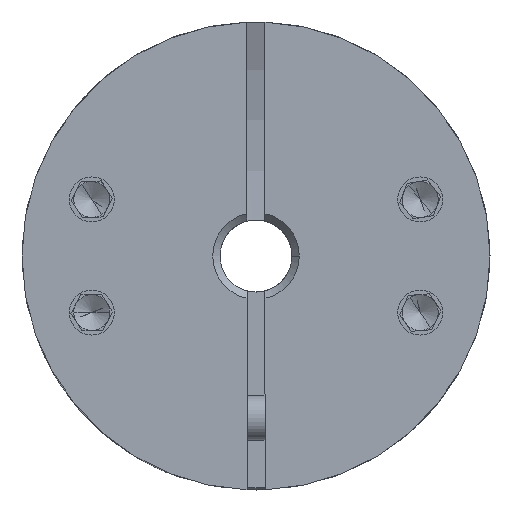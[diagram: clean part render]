
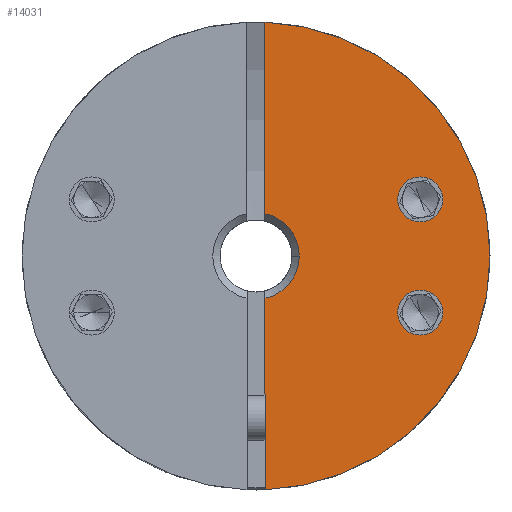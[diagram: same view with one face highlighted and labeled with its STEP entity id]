
A CAD part, front view. The second image highlights one B-rep face of the part: STEP entity #14031.
In plain terms, the highlighted planar face has unit normal (0, -1, 0).
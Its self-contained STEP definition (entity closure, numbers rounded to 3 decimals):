
#35 = ORIENTED_EDGE ( 'NONE', *, *, #4821, .T. ) ;
#223 = CARTESIAN_POINT ( 'NONE',  ( 10.88, -26.289, 3.142 ) ) ;
#957 = DIRECTION ( 'NONE',  ( 0., 1., 0. ) ) ;
#1394 = CARTESIAN_POINT ( 'NONE',  ( 2.255, -26.289, -2.347 ) ) ;
#1479 = DIRECTION ( 'NONE',  ( 0., 1., 0. ) ) ;
#1619 = CIRCLE ( 'NONE', #20240, 13. ) ;
#1633 = CARTESIAN_POINT ( 'NONE',  ( 2.255, -26.289, 12.99 ) ) ;
#1815 = VERTEX_POINT ( 'NONE', #15685 ) ;
#1834 = EDGE_CURVE ( 'NONE', #8481, #5390, #20692, .T. ) ;
#1841 = DIRECTION ( 'NONE',  ( 0., -1., 0. ) ) ;
#2091 = LINE ( 'NONE', #19864, #3199 ) ;
#2253 = DIRECTION ( 'NONE',  ( 1., 0., 0. ) ) ;
#3199 = VECTOR ( 'NONE', #9138, 1000. ) ;
#3470 = LINE ( 'NONE', #17398, #21293 ) ;
#4351 = VERTEX_POINT ( 'NONE', #19041 ) ;
#4403 = ORIENTED_EDGE ( 'NONE', *, *, #5373, .T. ) ;
#4557 = EDGE_CURVE ( 'NONE', #7689, #1815, #9451, .T. ) ;
#4639 = AXIS2_PLACEMENT_3D ( 'NONE', #17723, #1841, #14250 ) ;
#4821 = EDGE_CURVE ( 'NONE', #1815, #15744, #1619, .T. ) ;
#4854 = DIRECTION ( 'NONE',  ( 1., 0., 0. ) ) ;
#5155 = AXIS2_PLACEMENT_3D ( 'NONE', #7135, #8752, #21049 ) ;
#5373 = EDGE_CURVE ( 'NONE', #4351, #20056, #16672, .T. ) ;
#5390 = VERTEX_POINT ( 'NONE', #1394 ) ;
#5457 = DIRECTION ( 'NONE',  ( 1., 0., 0. ) ) ;
#5691 = CARTESIAN_POINT ( 'NONE',  ( 12.13, -26.289, -3.142 ) ) ;
#5926 = ORIENTED_EDGE ( 'NONE', *, *, #4557, .T. ) ;
#6212 = VERTEX_POINT ( 'NONE', #14711 ) ;
#7135 = CARTESIAN_POINT ( 'NONE',  ( 1.755, -26.289, 0. ) ) ;
#7640 = VERTEX_POINT ( 'NONE', #15616 ) ;
#7653 = EDGE_CURVE ( 'NONE', #5390, #7689, #3470, .T. ) ;
#7689 = VERTEX_POINT ( 'NONE', #10659 ) ;
#8171 = AXIS2_PLACEMENT_3D ( 'NONE', #12093, #1479, #4854 ) ;
#8256 = ORIENTED_EDGE ( 'NONE', *, *, #19450, .T. ) ;
#8343 = CARTESIAN_POINT ( 'NONE',  ( 10.88, -26.289, -3.142 ) ) ;
#8363 = DIRECTION ( 'NONE',  ( 1., 0., 0. ) ) ;
#8481 = VERTEX_POINT ( 'NONE', #11680 ) ;
#8752 = DIRECTION ( 'NONE',  ( 0., 1., 0. ) ) ;
#8767 = DIRECTION ( 'NONE',  ( 0., 0., -1. ) ) ;
#8856 = DIRECTION ( 'NONE',  ( 0., -1., 0. ) ) ;
#9138 = DIRECTION ( 'NONE',  ( 0., 0., -1. ) ) ;
#9292 = FACE_BOUND ( 'NONE', #10827, .T. ) ;
#9451 = CIRCLE ( 'NONE', #13106, 13. ) ;
#9516 = ORIENTED_EDGE ( 'NONE', *, *, #14835, .T. ) ;
#9820 = EDGE_CURVE ( 'NONE', #6212, #10980, #10014, .T. ) ;
#10014 = CIRCLE ( 'NONE', #20511, 1.25 ) ;
#10659 = CARTESIAN_POINT ( 'NONE',  ( 2.255, -26.289, -12.99 ) ) ;
#10827 = EDGE_LOOP ( 'NONE', ( #13080, #12329 ) ) ;
#10907 = ORIENTED_EDGE ( 'NONE', *, *, #13096, .T. ) ;
#10976 = FACE_OUTER_BOUND ( 'NONE', #20915, .T. ) ;
#10980 = VERTEX_POINT ( 'NONE', #16209 ) ;
#11433 = EDGE_CURVE ( 'NONE', #10980, #6212, #19402, .T. ) ;
#11680 = CARTESIAN_POINT ( 'NONE',  ( 4.155, -26.289, 0. ) ) ;
#12093 = CARTESIAN_POINT ( 'NONE',  ( 10.88, -26.289, -3.142 ) ) ;
#12329 = ORIENTED_EDGE ( 'NONE', *, *, #9820, .T. ) ;
#12534 = PLANE ( 'NONE',  #4639 ) ;
#12701 = DIRECTION ( 'NONE',  ( 1., 0., 0. ) ) ;
#13080 = ORIENTED_EDGE ( 'NONE', *, *, #11433, .T. ) ;
#13096 = EDGE_CURVE ( 'NONE', #15744, #7640, #2091, .T. ) ;
#13106 = AXIS2_PLACEMENT_3D ( 'NONE', #18339, #8856, #2253 ) ;
#13193 = AXIS2_PLACEMENT_3D ( 'NONE', #8343, #18841, #22496 ) ;
#13453 = DIRECTION ( 'NONE',  ( 1., 0., 0. ) ) ;
#13792 = CIRCLE ( 'NONE', #13193, 1.25 ) ;
#14031 = ADVANCED_FACE ( 'NONE', ( #10976, #9292, #17353 ), #12534, .T. ) ;
#14250 = DIRECTION ( 'NONE',  ( 1., 0., 0. ) ) ;
#14711 = CARTESIAN_POINT ( 'NONE',  ( 12.13, -26.289, 3.142 ) ) ;
#14808 = AXIS2_PLACEMENT_3D ( 'NONE', #15220, #957, #13453 ) ;
#14835 = EDGE_CURVE ( 'NONE', #7640, #8481, #19260, .T. ) ;
#15220 = CARTESIAN_POINT ( 'NONE',  ( 1.755, -26.289, 0. ) ) ;
#15616 = CARTESIAN_POINT ( 'NONE',  ( 2.255, -26.289, 2.347 ) ) ;
#15685 = CARTESIAN_POINT ( 'NONE',  ( 14.755, -26.289, 0. ) ) ;
#15744 = VERTEX_POINT ( 'NONE', #1633 ) ;
#15879 = CARTESIAN_POINT ( 'NONE',  ( 10.88, -26.289, 3.142 ) ) ;
#15910 = ORIENTED_EDGE ( 'NONE', *, *, #7653, .T. ) ;
#16209 = CARTESIAN_POINT ( 'NONE',  ( 9.63, -26.289, 3.142 ) ) ;
#16271 = DIRECTION ( 'NONE',  ( 0., 1., 0. ) ) ;
#16672 = CIRCLE ( 'NONE', #8171, 1.25 ) ;
#17353 = FACE_BOUND ( 'NONE', #20088, .T. ) ;
#17398 = CARTESIAN_POINT ( 'NONE',  ( 2.255, -26.289, 5. ) ) ;
#17418 = AXIS2_PLACEMENT_3D ( 'NONE', #223, #16271, #12701 ) ;
#17531 = ORIENTED_EDGE ( 'NONE', *, *, #1834, .T. ) ;
#17723 = CARTESIAN_POINT ( 'NONE',  ( 1.755, -26.289, 0. ) ) ;
#18048 = DIRECTION ( 'NONE',  ( 0., 1., 0. ) ) ;
#18339 = CARTESIAN_POINT ( 'NONE',  ( 1.755, -26.289, 0. ) ) ;
#18841 = DIRECTION ( 'NONE',  ( 0., 1., 0. ) ) ;
#19041 = CARTESIAN_POINT ( 'NONE',  ( 9.63, -26.289, -3.142 ) ) ;
#19260 = CIRCLE ( 'NONE', #14808, 2.4 ) ;
#19402 = CIRCLE ( 'NONE', #17418, 1.25 ) ;
#19450 = EDGE_CURVE ( 'NONE', #20056, #4351, #13792, .T. ) ;
#19864 = CARTESIAN_POINT ( 'NONE',  ( 2.255, -26.289, 5. ) ) ;
#20056 = VERTEX_POINT ( 'NONE', #5691 ) ;
#20088 = EDGE_LOOP ( 'NONE', ( #4403, #8256 ) ) ;
#20240 = AXIS2_PLACEMENT_3D ( 'NONE', #22601, #20661, #8363 ) ;
#20511 = AXIS2_PLACEMENT_3D ( 'NONE', #15879, #18048, #5457 ) ;
#20661 = DIRECTION ( 'NONE',  ( 0., -1., 0. ) ) ;
#20692 = CIRCLE ( 'NONE', #5155, 2.4 ) ;
#20915 = EDGE_LOOP ( 'NONE', ( #10907, #9516, #17531, #15910, #5926, #35 ) ) ;
#21049 = DIRECTION ( 'NONE',  ( 1., 0., 0. ) ) ;
#21293 = VECTOR ( 'NONE', #8767, 1000. ) ;
#22496 = DIRECTION ( 'NONE',  ( 1., 0., 0. ) ) ;
#22601 = CARTESIAN_POINT ( 'NONE',  ( 1.755, -26.289, 0. ) ) ;
